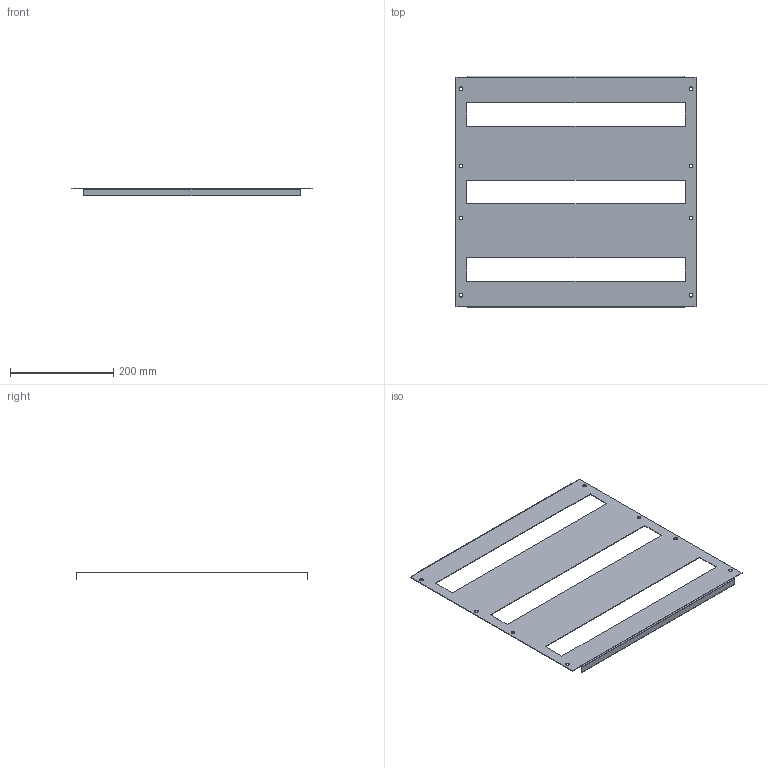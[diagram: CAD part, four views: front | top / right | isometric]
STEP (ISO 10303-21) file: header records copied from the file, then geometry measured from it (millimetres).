
FILE_DESCRIPTION (( 'STEP AP214' ), '1' );
FILE_NAME ('MB 45.50 P Ïàíåëü ìîäóëüíàÿ ñ âûðåçîì.STEP', '2016-07-06T11:01:03', ( '' ), ( '' ), 'SwSTEP 2.0', 'SolidWorks 2012', '' );
FILE_SCHEMA (( 'AUTOMOTIVE_DESIGN' ));
Length unit declared in the file: millimetre
Products named in the file (1): MB 45.50 P Ïàíåëü ìîäóëüíàÿ ñ âûðåçîì
Bounding box: 465 x 449 x 15 mm (x, y, z)
Volume: 192959.2 mm3; surface area: 327442.7 mm2
Topology: 1 solids, 1 shells, 54 faces, 140 edges, 88 vertices
Faces by surface type: plane 34, cylinder 20
Entity records: 1714 total; most frequent: DIRECTION 290, CARTESIAN_POINT 283, ORIENTED_EDGE 280, EDGE_CURVE 140, VECTOR 100, LINE 100, AXIS2_PLACEMENT_3D 95, VERTEX_POINT 88
